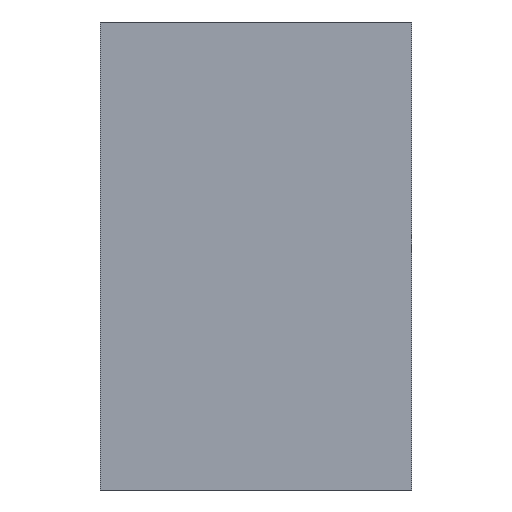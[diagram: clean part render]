
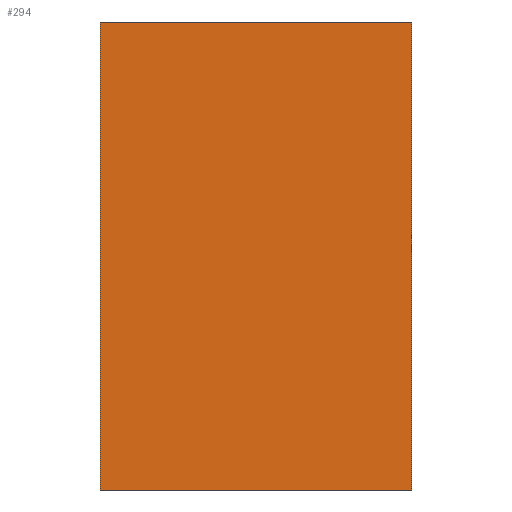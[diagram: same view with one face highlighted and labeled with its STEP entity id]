
A CAD part, left-side view. The second image highlights one B-rep face of the part: STEP entity #294.
In plain terms, the highlighted free-form (B-spline) face has degree [1, 1] with [2, 2] control points.
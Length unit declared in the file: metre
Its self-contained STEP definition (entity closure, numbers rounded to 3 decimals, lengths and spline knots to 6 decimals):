
#13=LINE('',#489,#25);
#16=LINE('',#498,#28);
#17=LINE('',#500,#29);
#18=LINE('',#502,#30);
#25=VECTOR('',#360,1.);
#28=VECTOR('',#363,1.);
#29=VECTOR('',#364,1.);
#30=VECTOR('',#365,1.);
#37=B_SPLINE_SURFACE_WITH_KNOTS('',1,1,((#494,#495),(#496,#497)),
 .PLANE_SURF.,.F.,.F.,.F.,(2,2),(2,2),(0.,1.),(0.,1.),.UNSPECIFIED.);
#76=ORIENTED_EDGE('',*,*,#160,.F.);
#77=ORIENTED_EDGE('',*,*,#161,.F.);
#78=ORIENTED_EDGE('',*,*,#162,.T.);
#79=ORIENTED_EDGE('',*,*,#157,.T.);
#157=EDGE_CURVE('',#200,#198,#13,.T.);
#160=EDGE_CURVE('',#202,#198,#16,.T.);
#161=EDGE_CURVE('',#203,#202,#17,.T.);
#162=EDGE_CURVE('',#203,#200,#18,.T.);
#198=VERTEX_POINT('',#487);
#200=VERTEX_POINT('',#490);
#202=VERTEX_POINT('',#499);
#203=VERTEX_POINT('',#501);
#232=EDGE_LOOP('',(#76,#77,#78,#79));
#258=FACE_BOUND('',#232,.T.);
#294=ADVANCED_FACE('',(#258),#37,.T.);
#360=DIRECTION('',(0.,1.,0.));
#363=DIRECTION('',(-0.014,0.,1.));
#364=DIRECTION('',(0.,1.,0.));
#365=DIRECTION('',(-0.014,0.,1.));
#487=CARTESIAN_POINT('',(-0.028412,0.,0.105684));
#489=CARTESIAN_POINT('',(-0.028412,-0.008,0.105684));
#490=CARTESIAN_POINT('',(-0.028412,-0.008,0.105684));
#494=CARTESIAN_POINT('',(-0.028242,-0.0084,0.093084));
#495=CARTESIAN_POINT('',(-0.028242,0.0004,0.093084));
#496=CARTESIAN_POINT('',(-0.02842,-0.0084,0.106284));
#497=CARTESIAN_POINT('',(-0.02842,0.0004,0.106284));
#498=CARTESIAN_POINT('',(-0.028331,0.,0.099684));
#499=CARTESIAN_POINT('',(-0.02825,0.,0.093684));
#500=CARTESIAN_POINT('',(-0.02825,-0.008,0.093684));
#501=CARTESIAN_POINT('',(-0.02825,-0.008,0.093684));
#502=CARTESIAN_POINT('',(-0.028331,-0.008,0.099684));
